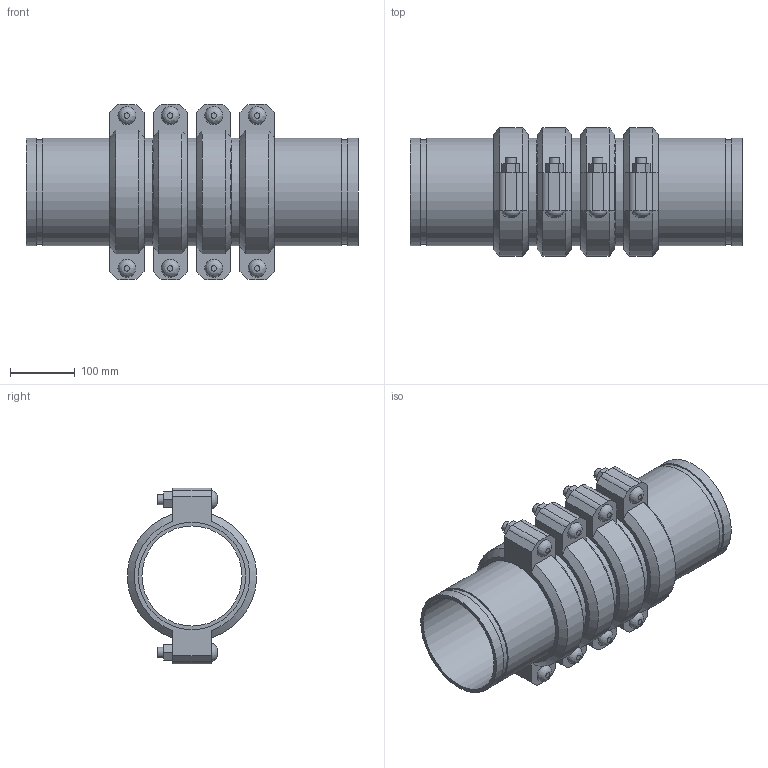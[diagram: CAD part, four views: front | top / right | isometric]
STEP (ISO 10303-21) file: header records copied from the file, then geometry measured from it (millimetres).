
FILE_DESCRIPTION(/* description */ ('VIC EXPANSION JOINT 4 COUPLINGS EXPANDED STYLE 155 (OGS)','CAx-IF Rec.Pracs.---Representation and Presentation of Product Manufacturing Information (PMI)---4.0---2014-10-13'),/* implementation_level */ '2;1');
FILE_NAME(/* name */ 'C:\Users\kkamble\AppData\Roaming\Autodesk\ApplicationPlugins\Victaulic.Temp\A310\Victaulic_IPS_Expansion Joint_Expanded_4 Couplings_Style 155 (OGS)_06.0 (165.1) (150).stp',/* time_stamp */ '2021-06-27T00:00:53+02:00',/* author */ ('kkamble'),/* organization */ ('Victaulic'),/* preprocessor_version */ 'ST-DEVELOPER v17.2',/* originating_system */ 'Autodesk Inventor 2019',/* authorisation */ '');
FILE_SCHEMA (('AP242_MANAGED_MODEL_BASED_3D_ENGINEERING_MIM_LF { 1 0 10303 442 1 1 4 }'));
Length unit declared in the file: inch
Products named in the file (4): 155-06.5 (165.1); Nipple-06.0 (165.1); Nipple-06.0 (165.1)_1; 075-06.0 (165.1)
Assembly tree (9 placements, depth 2):
  155-06.5 (165.1)
    Nipple-06.0 (165.1)  x2
    Nipple-06.0 (165.1)_1  x3
    075-06.0 (165.1)  x4
Bounding box: 510.79 x 198.42 x 270.76 mm (x, y, z)
Volume: 4107101.3 mm3; surface area: 982319.2 mm2
Topology: 9 solids, 17 shells, 288 faces, 682 edges, 480 vertices
Faces by surface type: plane 174, cylinder 90, cone 16, bspline 8
Full cylindrical faces by diameter (mm): 15.875 x16, 17.424 x8, 153.975 x5, 158.75 x4, 160.782 x10, 165.1 x23
Entity records: 2785 total; most frequent: CARTESIAN_POINT 493, DIRECTION 461, ORIENTED_EDGE 386, EDGE_CURVE 193, AXIS2_PLACEMENT_3D 184, VERTEX_POINT 138, EDGE_LOOP 107, LINE 93
